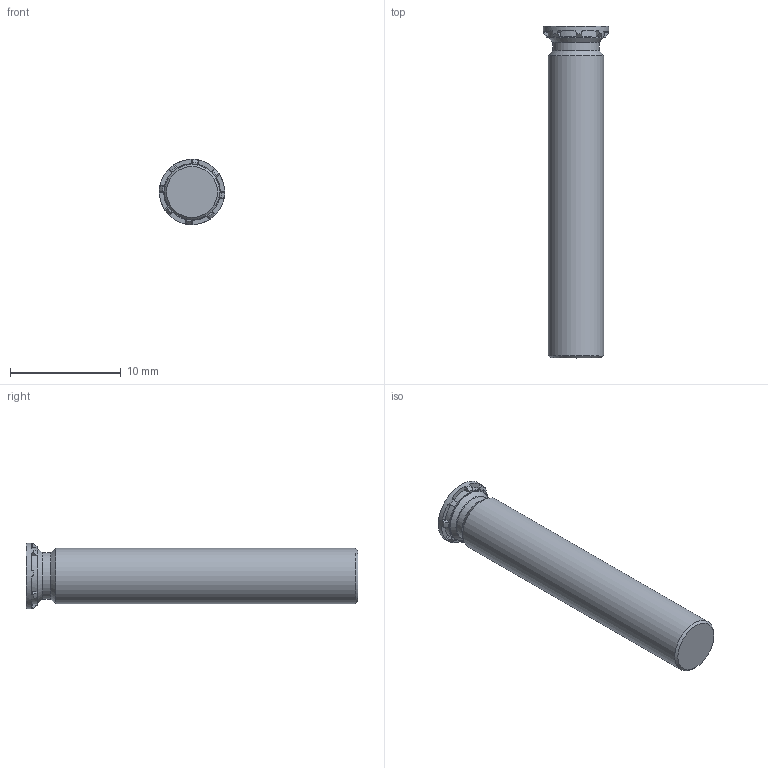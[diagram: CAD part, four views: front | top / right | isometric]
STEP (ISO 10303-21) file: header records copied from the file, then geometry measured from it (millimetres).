
FILE_DESCRIPTION(/* description */ (''),/* implementation_level */ '2;1');
FILE_NAME(/* name */ 'C:\Users\keval.kumar\Desktop\Fastit\Clinch Screw- Reduced FH Range\M5\Clinch Screw-Reduced FH Range_M5x30.stp',/* time_stamp */ '2024-03-12T14:08:59+06:00',/* author */ ('keval.kumar'),/* organization */ (''),/* preprocessor_version */ 'ST-DEVELOPER v18.1',/* originating_system */ 'Autodesk Inventor 2022',/* authorisation */ '');
FILE_SCHEMA (('AUTOMOTIVE_DESIGN { 1 0 10303 214 3 1 1 }'));
Length unit declared in the file: millimetre
Products named in the file (1): Clinch Screw-Reduced FH Range_M5x25
Bounding box: 5.9 x 30 x 5.9 mm (x, y, z)
Volume: 586.2 mm3; surface area: 528.6 mm2
Topology: 1 solids, 1 shells, 68 faces, 193 edges, 128 vertices
Faces by surface type: plane 43, cylinder 12, cone 11, torus 2
Full cylindrical faces by diameter (mm): 4.2 x1, 4.9 x1, 5 x1, 5.9 x1
Entity records: 2286 total; most frequent: DIRECTION 413, CARTESIAN_POINT 406, ORIENTED_EDGE 386, EDGE_CURVE 193, AXIS2_PLACEMENT_3D 159, VERTEX_POINT 128, LINE 95, VECTOR 95
